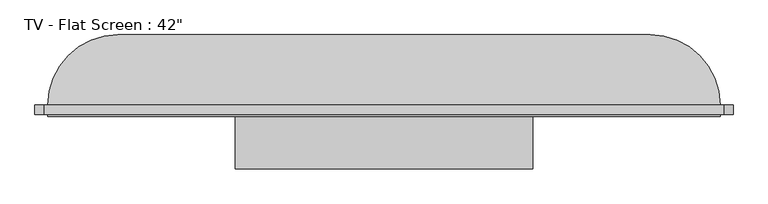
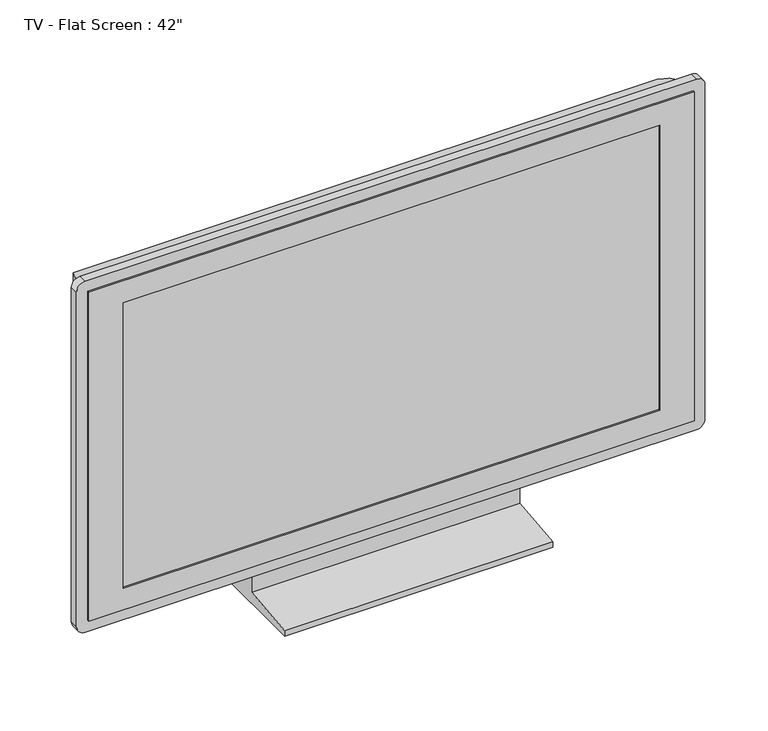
"""IFC4 building model written with IfcOpenShell, lengths in millimetres: furniture geometry."""

from ifc_helpers import new_model, si_unit, point, frame, frame_2d, origin, place, context, project, spatial, polyline, circle_curve, ellipse_curve, trimmed, segment, composite_curve, outline, extrude, faceted_brep, source, transform, mapped, element, save
from ifc_brep_helpers import plane_surface, cylinder_surface, advanced_brep


def furniture_7a3aaa4f(model_context):
    return source(origin(), model_context, "Body", "SolidModel", [
        extrude(outline(polyline([(-51.4613764, 80.0), (-1.4613764, 80.0), (48.5386236, 0.0), (-151.4613764, 0.0), (-151.4613764, 10.0), (-51.4613764, 20.0), (-51.4613764, 80.0)])), frame((-237.0858282, 0.0, 0.0), z_axis=(1.0, 0.0, 0.0), x_axis=(0.0, 1.0, 0.0)), (0.0, 0.0, 1.0), 466.2826281),
        faceted_brep([(522.338114, -69.4613764, 684.6160909), (-530.2271423, -69.4613764, 684.6160909), (-530.2271423, -69.4613764, 80.0), (522.338114, -69.4613764, 80.0), (-470.2271423, -69.4613764, 644.6160909), (462.338114, -69.4613764, 644.6160909), (462.338114, -69.4613764, 120.0), (-470.2271423, -69.4613764, 120.0), (522.338114, -51.4613764, 684.6160909), (522.338114, -51.4613764, 80.0), (-530.2271423, -51.4613764, 80.0), (-530.2271423, -51.4613764, 684.6160909), (-470.2271423, -66.4613764, 644.6160909), (-470.2271423, -66.4613764, 120.0), (462.338114, -66.4613764, 120.0), (462.338114, -66.4613764, 644.6160909)], [[[0, 1, 2, 3], [4, 5, 6, 7]], [[8, 9, 10, 11]], [[1, 0, 8, 11]], [[2, 1, 11, 10]], [[3, 2, 10, 9]], [[0, 3, 9, 8]], [[12, 13, 14, 15]], [[12, 15, 5, 4]], [[15, 14, 6, 5]], [[14, 13, 7, 6]], [[13, 12, 4, 7]]]),
        extrude(outline(composite_curve([segment(polyline([(704.6160909, 527.338114), (704.6160909, -535.2271423)]), True, "CONTINUOUS"), segment(trimmed(circle_curve(frame_2d((689.6160909, -535.2271423)), 15.0), [point((704.6160909, -535.2271423))], [point((689.6160909, -550.2271423))], False, "CARTESIAN"), True, "CONTINUOUS"), segment(polyline([(689.6160909, -550.2271423), (75.0, -550.2271423)]), True, "CONTINUOUS"), segment(trimmed(circle_curve(frame_2d((75.0, -535.2271423)), 15.0), [point((75.0, -550.2271423))], [point((60.0, -535.2271423))], False, "CARTESIAN"), True, "CONTINUOUS"), segment(polyline([(60.0, -535.2271423), (60.0, 527.338114)]), True, "CONTINUOUS"), segment(trimmed(circle_curve(frame_2d((75.0, 527.338114)), 15.0), [point((60.0, 527.338114))], [point((75.0, 542.338114))], False, "CARTESIAN"), True, "CONTINUOUS"), segment(polyline([(75.0, 542.338114), (689.6160909, 542.338114)]), True, "CONTINUOUS"), segment(trimmed(circle_curve(frame_2d((689.6160909, 527.338114)), 15.0), [point((689.6160909, 542.338114))], [point((704.6160909, 527.338114))], False, "CARTESIAN"), True, "CONTINUOUS")], self_intersect=False), holes=[polyline([(684.6160909, 522.338114), (80.0, 522.338114), (80.0, -530.2271423), (684.6160909, -530.2271423), (684.6160909, 522.338114)])]), frame((0.0, -66.4613764, 0.0), z_axis=(0.0, 1.0, 0.0), x_axis=(0.0, 0.0, 1.0)), (0.0, 0.0, 1.0), 15.0),
        advanced_brep(
        [(-530.2271423, -51.4613764, 80.0), (522.338114, -51.4613764, 80.0), (522.338114, -51.4613764, 684.6160909), (-530.2271423, -51.4613764, 684.6160909), (412.338114, 58.5386236, 80.0), (-420.2271423, 58.5386236, 80.0), (-420.2271423, 58.5386236, 574.6160909), (412.338114, 58.5386236, 574.6160909)],
        [
            (0, 1),
            (1, 2),
            (2, 3),
            (3, 0),
            (4, 5),
            (5, 6),
            (6, 7),
            (7, 4),
            (0, 5, circle_curve(frame((-420.2271423, -51.4613764, 80.0), z_axis=(0.0, 0.0, -1.0), x_axis=(-1.0, 0.0, 0.0)), 110.0)),
            (4, 1, circle_curve(frame((412.338114, -51.4613764, 80.0), z_axis=(0.0, 0.0, -1.0), x_axis=(1.0, 0.0, 0.0)), 110.0)),
            (7, 2, ellipse_curve(frame((412.338114, -51.4613764, 574.6160909), z_axis=(0.7071067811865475, 0.0, -0.7071067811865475), x_axis=(0.7071067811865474, 0.0, 0.7071067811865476)), 155.5634919, 110.0)),
            (6, 3, ellipse_curve(frame((-420.2271423, -51.4613764, 574.6160909), z_axis=(0.7071067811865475, 0.0, 0.7071067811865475), x_axis=(-0.7071067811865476, 0.0, 0.7071067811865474)), 155.5634919, 110.0)),
        ],
        [
            plane_surface(frame((-530.2271423, -51.4613764, 684.6160909), z_axis=(0.0, -1.0, 0.0), x_axis=(-1.0, 0.0, 0.0))),
            plane_surface(frame((-530.2271423, 58.5386236, 684.6160909), z_axis=(0.0, 1.0, 0.0), x_axis=(1.0, 0.0, 0.0))),
            plane_surface(frame((-530.2271423, -51.4613764, 80.0), z_axis=(0.0, 0.0, -1.0), x_axis=(0.0, 1.0, 0.0))),
            cylinder_surface(frame((412.338114, -51.4613764, 80.0), z_axis=(0.0, 0.0, 1.0), x_axis=(1.0, 0.0, 0.0)), 110.0),
            cylinder_surface(frame((522.338114, -51.4613764, 574.6160909), z_axis=(-1.0, 0.0, 0.0), x_axis=(0.0, 0.0, 1.0)), 110.0),
            cylinder_surface(frame((-420.2271423, -51.4613764, 684.6160909), z_axis=(0.0, 0.0, -1.0), x_axis=(-1.0, 0.0, 0.0)), 110.0),
        ],
        [
            (0, [[1, 2, 3, 4]]),
            (1, [[5, 6, 7, 8]]),
            (2, [[-1, 9, -5, 10]]),
            (3, [[11, -2, -10, -8]]),
            (4, [[-11, -7, 12, -3]]),
            (5, [[-12, -6, -9, -4]]),
        ],
    ),
    ])


if __name__ == "__main__":
    model = new_model("IFC4")
    model_context = context("Model", 3, world=origin())
    ifc_project = project(units=[si_unit("LENGTHUNIT", "METRE", prefix="MILLI")], contexts=[model_context])
    site = spatial("IfcSite", under=ifc_project)
    building = spatial("IfcBuilding", under=site)
    placement = place(None, origin())
    furniture_shape = furniture_7a3aaa4f(model_context)
    element("IfcFurniture", 1, ObjectType="TV - Flat Screen : 42\"", at=placement, inside=building, context=model_context, shape_type="MappedRepresentation", body=[
        mapped(furniture_shape, transform((0.0, 0.0, 0.0), x_axis=(1.0, 0.0, 0.0), y_axis=(0.0, 1.0, 0.0), z_axis=(0.0, 0.0, 1.0))),
    ])
    save(model, "model.ifc")
